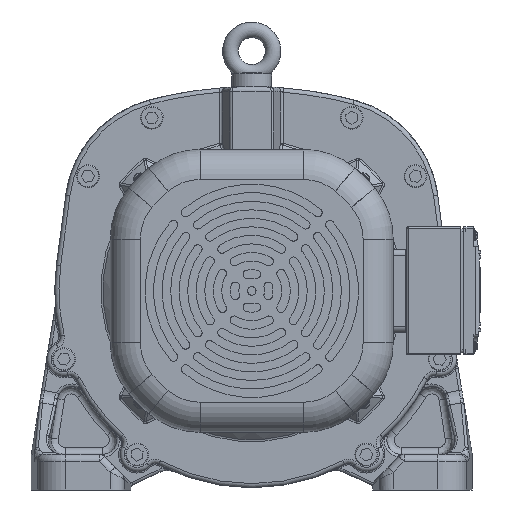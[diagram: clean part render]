
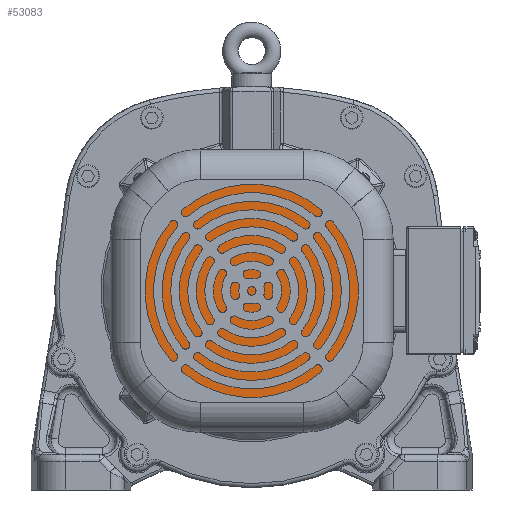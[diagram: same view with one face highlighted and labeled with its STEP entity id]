
A CAD part, front view. The second image highlights one B-rep face of the part: STEP entity #53083.
In plain terms, the highlighted planar face has unit normal (0, -1, 0).
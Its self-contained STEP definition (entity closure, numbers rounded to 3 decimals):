
#2068=PLANE('',#57196);
#3489=FACE_OUTER_BOUND('',#6786,.T.);
#6786=EDGE_LOOP('',(#37060));
#10125=CIRCLE('',#57194,87.5);
#21455=VERTEX_POINT('',#82401);
#27028=EDGE_CURVE('',#21455,#21455,#10125,.T.);
#37060=ORIENTED_EDGE('',*,*,#27028,.F.);
#53083=ADVANCED_FACE('',(#3489),#2068,.F.);
#57194=AXIS2_PLACEMENT_3D('',#82402,#66125,#66126);
#57196=AXIS2_PLACEMENT_3D('',#82406,#66130,#66131);
#66125=DIRECTION('center_axis',(0.,1.,0.));
#66126=DIRECTION('ref_axis',(-0.707,0.,0.707));
#66130=DIRECTION('center_axis',(0.,1.,0.));
#66131=DIRECTION('ref_axis',(-0.707,0.,0.707));
#82401=CARTESIAN_POINT('',(62.1,-332.928,-63.622));
#82402=CARTESIAN_POINT('Origin',(0.228,-332.928,-1.75));
#82406=CARTESIAN_POINT('Origin',(0.228,-332.928,-1.75));
